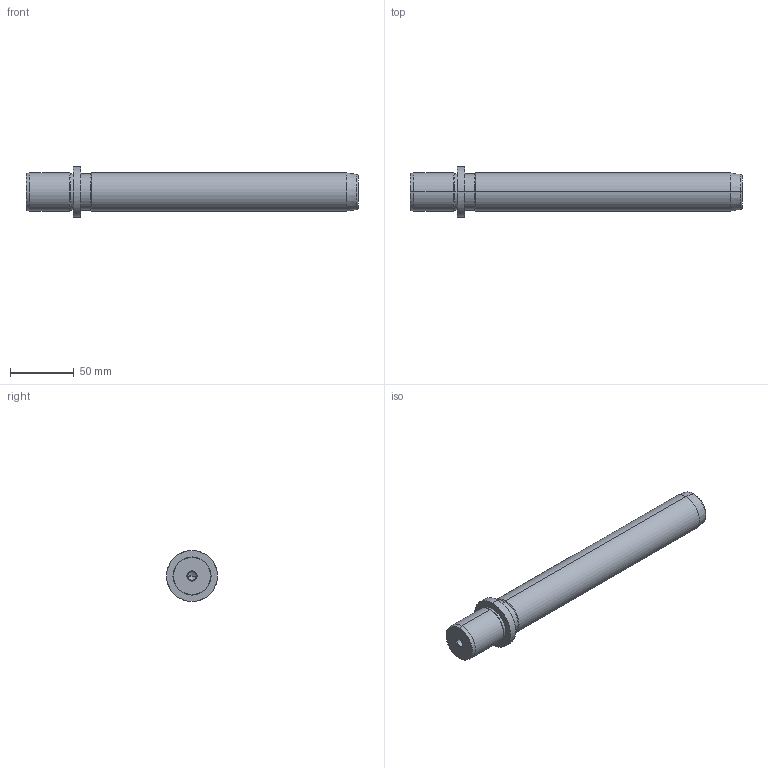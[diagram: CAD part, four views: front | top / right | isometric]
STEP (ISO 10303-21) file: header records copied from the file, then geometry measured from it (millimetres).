
FILE_DESCRIPTION(('CATIA V5 STEP Exchange'),'2;1');
FILE_NAME('C:\Users\Utente\Desktop\IO LAVORO\3D X SITO CF\X SITO\719\719-30x224.stp','2021-01-03T16:05:03+00:00',('none'),('none'),'CATIA Version 5 Release 20 GA (IN-10)','CATIA V5 STEP AP203','none');
FILE_SCHEMA(('CONFIG_CONTROL_DESIGN'));
Length unit declared in the file: millimetre
Products named in the file (1): 719-30x224
Bounding box: 261 x 40 x 40 mm (x, y, z)
Volume: 184979.7 mm3; surface area: 28179.6 mm2
Topology: 1 solids, 1 shells, 36 faces, 100 edges, 66 vertices
Faces by surface type: cone 16, cylinder 14, plane 4, torus 2
Entity records: 1267 total; most frequent: CARTESIAN_POINT 334, ORIENTED_EDGE 192, DIRECTION 159, EDGE_CURVE 96, AXIS2_PLACEMENT_3D 94, VERTEX_POINT 66, CIRCLE 57, EDGE_LOOP 40
